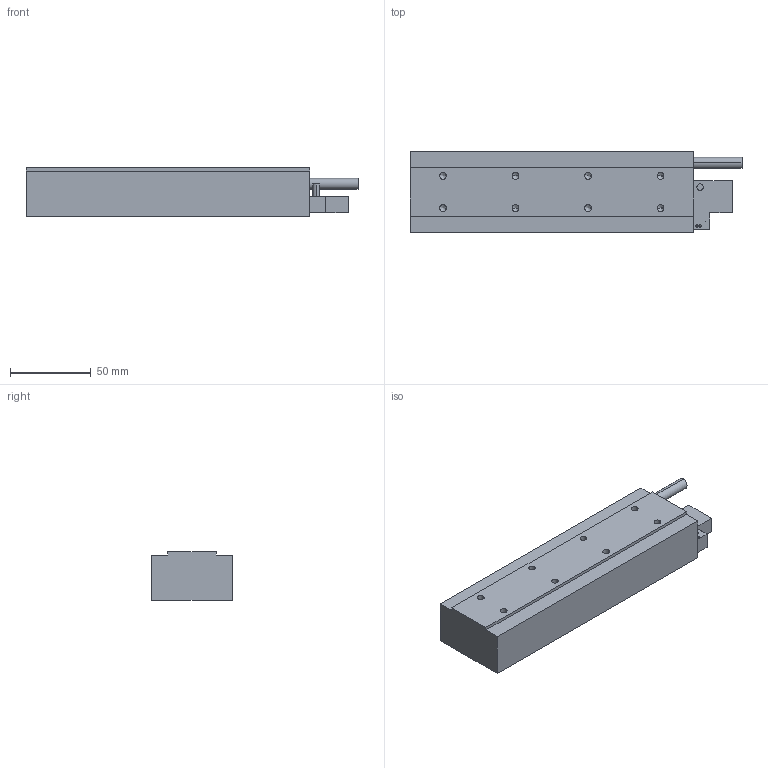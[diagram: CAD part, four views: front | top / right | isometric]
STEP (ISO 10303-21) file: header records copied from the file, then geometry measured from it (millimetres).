
FILE_DESCRIPTION (( 'STEP AP214' ), '1' );
FILE_NAME ('FLT-50-176（带霍尔）.STEP', '2022-04-13T09:07:16', ( 'Microsoft' ), ( 'Microsoft' ), 'SwSTEP 2.0', 'SolidWorks 2016', '' );
FILE_SCHEMA (( 'AUTOMOTIVE_DESIGN' ));
Length unit declared in the file: millimetre
Products named in the file (3): FLT-50-176（带霍尔）; FLT-50-176; FLT齊嫌耀倰芞
Assembly tree (2 placements, depth 2):
  FLT-50-176（带霍尔）
    FLT齊嫌耀倰芞
    FLT-50-176
Bounding box: 206 x 50 x 30 mm (x, y, z)
Volume: 262999.7 mm3; surface area: 34998.7 mm2
Topology: 2 solids, 2 shells, 82 faces, 198 edges, 112 vertices
Faces by surface type: cylinder 36, cone 24, plane 22
Entity records: 2552 total; most frequent: DIRECTION 420, CARTESIAN_POINT 373, ORIENTED_EDGE 348, EDGE_CURVE 174, AXIS2_PLACEMENT_3D 159, VERTEX_POINT 112, LINE 102, VECTOR 102
